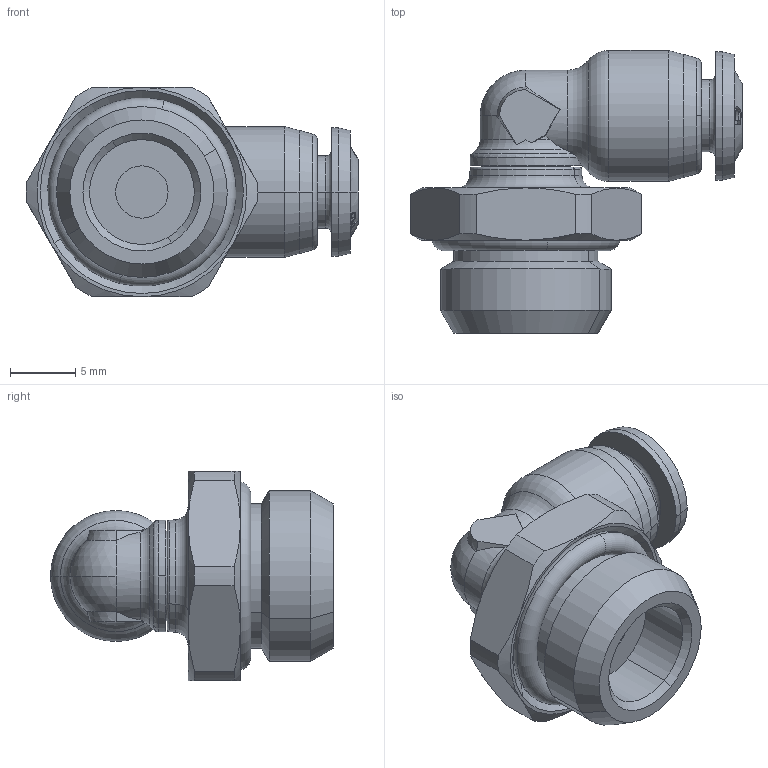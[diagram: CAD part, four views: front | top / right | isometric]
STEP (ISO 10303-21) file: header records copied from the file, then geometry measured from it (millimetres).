
FILE_DESCRIPTION (( 'STEP AP214' ), '1' );
FILE_NAME ('5511600005.step', '2012-10-02T17:36:39', ( '' ), ( '' ), 'SwSTEP 2.0', 'SolidWorks 2012', '' );
FILE_SCHEMA (( 'AUTOMOTIVE_DESIGN' ));
Length unit declared in the file: millimetre
Products named in the file (1): 5511600005
Bounding box: 25.35 x 21.6 x 16 mm (x, y, z)
Volume: 2669.3 mm3; surface area: 2152.5 mm2
Topology: 2 solids, 2 shells, 264 faces, 647 edges, 411 vertices
Faces by surface type: bspline 116, cone 55, cylinder 33, plane 32, torus 26, sphere 2
Entity records: 15060 total; most frequent: CARTESIAN_POINT 6927, ORIENTED_EDGE 1294, DIRECTION 697, EDGE_CURVE 647, VERTEX_POINT 411, B_SPLINE_CURVE_WITH_KNOTS 398, AXIS2_PLACEMENT_3D 311, EDGE_LOOP 290
